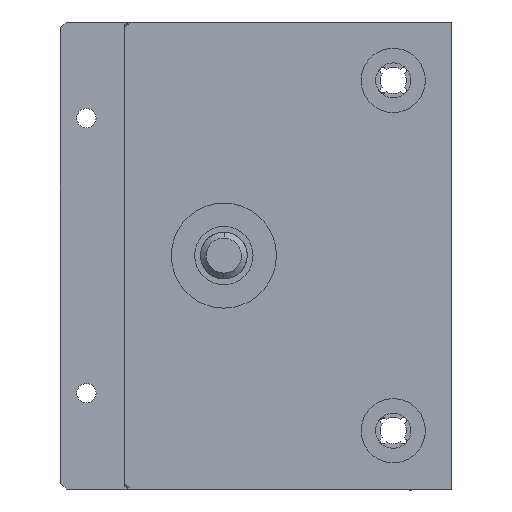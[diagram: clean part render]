
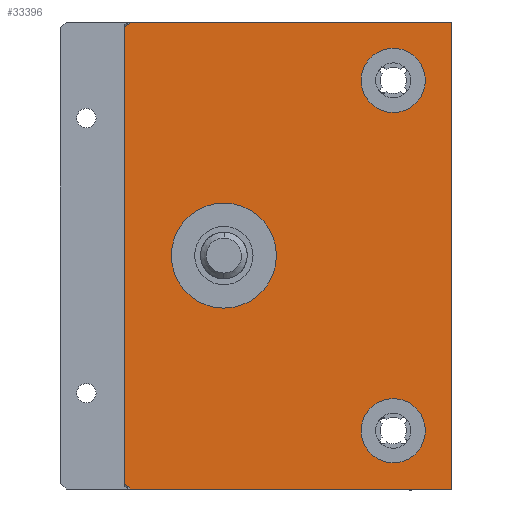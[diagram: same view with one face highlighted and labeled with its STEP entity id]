
A CAD part, left-side view. The second image highlights one B-rep face of the part: STEP entity #33396.
In plain terms, the highlighted planar face has unit normal (-1, 0, 0) as drawn and (0, 0, -1) by its records, which use the part's own axes.
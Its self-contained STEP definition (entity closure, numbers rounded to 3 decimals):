
#613 = EDGE_CURVE ( 'NONE', #30761, #49451, #29173, .T. ) ;
#1727 = EDGE_LOOP ( 'NONE', ( #50535, #25439 ) ) ;
#1893 = AXIS2_PLACEMENT_3D ( 'NONE', #17777, #47072, #46901 ) ;
#2947 = CARTESIAN_POINT ( 'NONE',  ( 0., 11., 0. ) ) ;
#3891 = VERTEX_POINT ( 'NONE', #28338 ) ;
#4581 = EDGE_CURVE ( 'NONE', #13229, #3891, #51640, .T. ) ;
#5103 = EDGE_CURVE ( 'NONE', #34611, #37998, #44378, .T. ) ;
#5916 = EDGE_CURVE ( 'NONE', #20197, #3891, #53891, .T. ) ;
#6111 = DIRECTION ( 'NONE',  ( 0.707, -0.707, 0. ) ) ;
#6281 = DIRECTION ( 'NONE',  ( 1., 0., 0. ) ) ;
#6320 = CARTESIAN_POINT ( 'NONE',  ( 40., -28., 0. ) ) ;
#6554 = CARTESIAN_POINT ( 'NONE',  ( -40., -28., 0. ) ) ;
#6651 = DIRECTION ( 'NONE',  ( -1., 0., 0. ) ) ;
#7621 = CARTESIAN_POINT ( 'NONE',  ( 30., -18., 0. ) ) ;
#8808 = EDGE_CURVE ( 'NONE', #37998, #20197, #53991, .T. ) ;
#9069 = ORIENTED_EDGE ( 'NONE', *, *, #4581, .T. ) ;
#9223 = CIRCLE ( 'NONE', #23732, 5.5 ) ;
#9830 = EDGE_CURVE ( 'NONE', #13229, #41447, #26038, .T. ) ;
#10157 = DIRECTION ( 'NONE',  ( 0., 0., -1. ) ) ;
#13203 = PLANE ( 'NONE',  #41437 ) ;
#13229 = VERTEX_POINT ( 'NONE', #38725 ) ;
#13380 = VERTEX_POINT ( 'NONE', #34868 ) ;
#14772 = ORIENTED_EDGE ( 'NONE', *, *, #16232, .F. ) ;
#15328 = ORIENTED_EDGE ( 'NONE', *, *, #28671, .T. ) ;
#16198 = ORIENTED_EDGE ( 'NONE', *, *, #9830, .F. ) ;
#16232 = EDGE_CURVE ( 'NONE', #32784, #53557, #40454, .T. ) ;
#16377 = AXIS2_PLACEMENT_3D ( 'NONE', #31075, #31639, #18614 ) ;
#16461 = DIRECTION ( 'NONE',  ( -1., 0., 0. ) ) ;
#17777 = CARTESIAN_POINT ( 'NONE',  ( 0., 11., 0. ) ) ;
#17978 = CIRCLE ( 'NONE', #16377, 5.5 ) ;
#18439 = EDGE_CURVE ( 'NONE', #13380, #27865, #26022, .T. ) ;
#18614 = DIRECTION ( 'NONE',  ( -1., 0., 0. ) ) ;
#18927 = EDGE_CURVE ( 'NONE', #27865, #13380, #50205, .T. ) ;
#19441 = CARTESIAN_POINT ( 'NONE',  ( -40., 28., 0. ) ) ;
#20197 = VERTEX_POINT ( 'NONE', #6320 ) ;
#20704 = EDGE_LOOP ( 'NONE', ( #26883, #34521 ) ) ;
#20816 = AXIS2_PLACEMENT_3D ( 'NONE', #2947, #36565, #45001 ) ;
#21364 = FACE_OUTER_BOUND ( 'NONE', #38782, .T. ) ;
#21940 = ORIENTED_EDGE ( 'NONE', *, *, #5916, .F. ) ;
#21975 = DIRECTION ( 'NONE',  ( 0.707, 0.707, 0. ) ) ;
#23732 = AXIS2_PLACEMENT_3D ( 'NONE', #41266, #49336, #36473 ) ;
#24668 = ORIENTED_EDGE ( 'NONE', *, *, #5103, .F. ) ;
#24992 = DIRECTION ( 'NONE',  ( 0., 1., 0. ) ) ;
#25439 = ORIENTED_EDGE ( 'NONE', *, *, #613, .F. ) ;
#25775 = LINE ( 'NONE', #50557, #51921 ) ;
#25987 = ORIENTED_EDGE ( 'NONE', *, *, #8808, .F. ) ;
#26022 = CIRCLE ( 'NONE', #1893, 9. ) ;
#26038 = LINE ( 'NONE', #19441, #31258 ) ;
#26505 = DIRECTION ( 'NONE',  ( 0., -1., 0. ) ) ;
#26883 = ORIENTED_EDGE ( 'NONE', *, *, #18439, .T. ) ;
#27865 = VERTEX_POINT ( 'NONE', #37409 ) ;
#28338 = CARTESIAN_POINT ( 'NONE',  ( 40., 27., 0. ) ) ;
#28671 = EDGE_CURVE ( 'NONE', #34611, #41447, #25775, .T. ) ;
#29002 = VECTOR ( 'NONE', #24992, 1000. ) ;
#29173 = CIRCLE ( 'NONE', #33455, 5.5 ) ;
#29788 = EDGE_CURVE ( 'NONE', #49451, #30761, #9223, .T. ) ;
#30632 = VECTOR ( 'NONE', #26505, 1000. ) ;
#30761 = VERTEX_POINT ( 'NONE', #37155 ) ;
#31075 = CARTESIAN_POINT ( 'NONE',  ( 30., -18., 0. ) ) ;
#31258 = VECTOR ( 'NONE', #6651, 1000. ) ;
#31266 = DIRECTION ( 'NONE',  ( 1., 0., 0. ) ) ;
#31563 = CARTESIAN_POINT ( 'NONE',  ( 39., 28., 0. ) ) ;
#31639 = DIRECTION ( 'NONE',  ( 0., 0., -1. ) ) ;
#32494 = FACE_BOUND ( 'NONE', #43992, .T. ) ;
#32784 = VERTEX_POINT ( 'NONE', #43710 ) ;
#33396 = ADVANCED_FACE ( 'NONE', ( #47562, #32494, #21364, #36382 ), #13203, .F. ) ;
#33455 = AXIS2_PLACEMENT_3D ( 'NONE', #51727, #10157, #39057 ) ;
#33582 = CARTESIAN_POINT ( 'NONE',  ( -35.5, -18., 0. ) ) ;
#34521 = ORIENTED_EDGE ( 'NONE', *, *, #18927, .T. ) ;
#34611 = VERTEX_POINT ( 'NONE', #46359 ) ;
#34868 = CARTESIAN_POINT ( 'NONE',  ( -9., 11., 0. ) ) ;
#36382 = FACE_BOUND ( 'NONE', #20704, .T. ) ;
#36473 = DIRECTION ( 'NONE',  ( -1., 0., 0. ) ) ;
#36565 = DIRECTION ( 'NONE',  ( 0., 0., 1. ) ) ;
#36736 = ORIENTED_EDGE ( 'NONE', *, *, #41956, .F. ) ;
#36903 = DIRECTION ( 'NONE',  ( 0., 0., -1. ) ) ;
#37155 = CARTESIAN_POINT ( 'NONE',  ( -24.5, -18., 0. ) ) ;
#37409 = CARTESIAN_POINT ( 'NONE',  ( 9., 11., 0. ) ) ;
#37998 = VERTEX_POINT ( 'NONE', #42658 ) ;
#38725 = CARTESIAN_POINT ( 'NONE',  ( 39., 28., 0. ) ) ;
#38782 = EDGE_LOOP ( 'NONE', ( #16198, #9069, #21940, #25987, #24668, #15328 ) ) ;
#38900 = DIRECTION ( 'NONE',  ( 0., 0., 1. ) ) ;
#39057 = DIRECTION ( 'NONE',  ( -1., 0., 0. ) ) ;
#40454 = CIRCLE ( 'NONE', #41070, 5.5 ) ;
#41070 = AXIS2_PLACEMENT_3D ( 'NONE', #7621, #36903, #16461 ) ;
#41266 = CARTESIAN_POINT ( 'NONE',  ( -30., -18., 0. ) ) ;
#41437 = AXIS2_PLACEMENT_3D ( 'NONE', #46998, #38900, #6281 ) ;
#41447 = VERTEX_POINT ( 'NONE', #49603 ) ;
#41956 = EDGE_CURVE ( 'NONE', #53557, #32784, #17978, .T. ) ;
#42658 = CARTESIAN_POINT ( 'NONE',  ( -40., -28., 0. ) ) ;
#43108 = CARTESIAN_POINT ( 'NONE',  ( -40., 28., 0. ) ) ;
#43710 = CARTESIAN_POINT ( 'NONE',  ( 35.5, -18., 0. ) ) ;
#43992 = EDGE_LOOP ( 'NONE', ( #36736, #14772 ) ) ;
#44134 = VECTOR ( 'NONE', #31266, 1000. ) ;
#44378 = LINE ( 'NONE', #43108, #30632 ) ;
#45001 = DIRECTION ( 'NONE',  ( 1., 0., 0. ) ) ;
#46359 = CARTESIAN_POINT ( 'NONE',  ( -40., 27., 0. ) ) ;
#46901 = DIRECTION ( 'NONE',  ( 1., 0., 0. ) ) ;
#46998 = CARTESIAN_POINT ( 'NONE',  ( 0., 0., 0. ) ) ;
#47072 = DIRECTION ( 'NONE',  ( 0., 0., 1. ) ) ;
#47562 = FACE_BOUND ( 'NONE', #1727, .T. ) ;
#48802 = CARTESIAN_POINT ( 'NONE',  ( 24.5, -18., 0. ) ) ;
#49336 = DIRECTION ( 'NONE',  ( 0., 0., -1. ) ) ;
#49451 = VERTEX_POINT ( 'NONE', #33582 ) ;
#49603 = CARTESIAN_POINT ( 'NONE',  ( -39., 28., 0. ) ) ;
#50205 = CIRCLE ( 'NONE', #20816, 9. ) ;
#50535 = ORIENTED_EDGE ( 'NONE', *, *, #29788, .F. ) ;
#50557 = CARTESIAN_POINT ( 'NONE',  ( -40., 27., 0. ) ) ;
#51640 = LINE ( 'NONE', #31563, #54237 ) ;
#51727 = CARTESIAN_POINT ( 'NONE',  ( -30., -18., 0. ) ) ;
#51921 = VECTOR ( 'NONE', #21975, 1000. ) ;
#53557 = VERTEX_POINT ( 'NONE', #48802 ) ;
#53689 = CARTESIAN_POINT ( 'NONE',  ( 40., 28., 0. ) ) ;
#53891 = LINE ( 'NONE', #53689, #29002 ) ;
#53991 = LINE ( 'NONE', #6554, #44134 ) ;
#54237 = VECTOR ( 'NONE', #6111, 1000. ) ;
